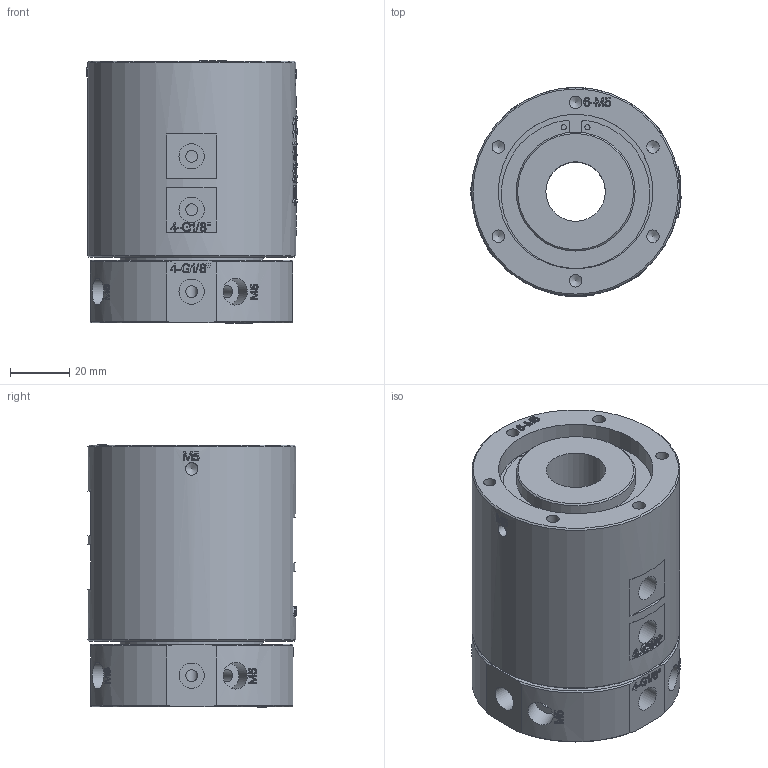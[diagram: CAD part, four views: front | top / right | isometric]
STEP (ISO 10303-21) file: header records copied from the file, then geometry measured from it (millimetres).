
FILE_DESCRIPTION(/* description */ (''),/* implementation_level */ '2;1');
FILE_NAME(/* name */ 'HQ0401-D20-3D模型.stp',/* time_stamp */ '2025-08-06T08:48:48+08:00',/* author */ (''),/* organization */ (''),/* preprocessor_version */ 'ST-DEVELOPER v16.7',/* originating_system */ 'SIEMENS PLM Software NX 12.0',/* authorisation */ '');
FILE_SCHEMA (('AUTOMOTIVE_DESIGN { 1 0 10303 214 3 1 1 1 }'));
Products named in the file (1): Admi3F746D2Ejpv8
Bounding box: 70.66 x 70.2 x 88.4 mm (x, y, z)
Volume: 290422 mm3; surface area: 46476.2 mm2
Topology: 1 solids, 1 shells, 1298 faces, 3544 edges, 2369 vertices
Faces by surface type: extrusion 614, plane 514, cylinder 85, bspline 62, cone 23
Full cylindrical faces by diameter (mm): 1.75 x2, 4 x12, 4.1 x4, 4.2 x16, 6.8 x4, 8.5 x8, 9 x4, 20 x1, 37.5 x1, 40 x1, 48 x1, 52 x1, 70 x1
Entity records: 49807 total; most frequent: CARTESIAN_POINT 21954, ORIENTED_EDGE 6834, EDGE_CURVE 3417, DIRECTION 3282, B_SPLINE_CURVE_WITH_KNOTS 2975, VERTEX_POINT 2330, EDGE_LOOP 1505, VECTOR 1304
